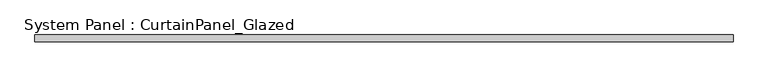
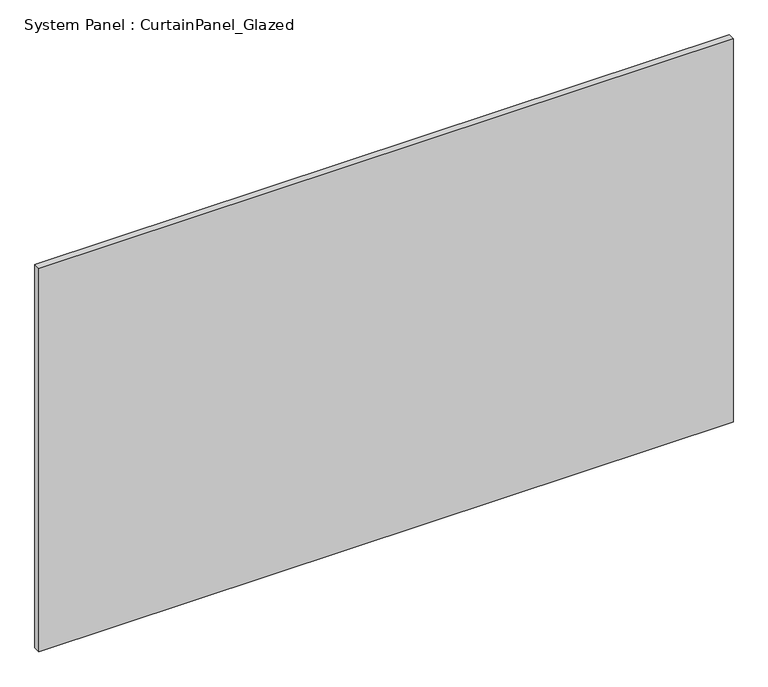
"""IFC4 building model written with IfcOpenShell, lengths in millimetres: plate geometry, System Panel : CurtainPanel_Glazed."""

from ifc_helpers import new_model, si_unit, origin, origin_with_axes, place, context, project, spatial, polyline, outline, extrude, source, transform, mapped, element, save


def system_panel_curtainpanel_glazed_9491f273(model_context):
    return source(origin(), model_context, "Body", "SweptSolid", [
        extrude(outline(polyline([(1271.6666668, -12.5), (-1271.6666668, -12.5), (-1271.6666668, 12.5), (1271.6666668, 12.5), (1271.6666668, -12.5)])), origin_with_axes(), (0.0, 0.0, 1.0), 1485.0),
    ])


if __name__ == "__main__":
    model = new_model("IFC4")
    model_context = context("Model", 3, world=origin())
    ifc_project = project(units=[si_unit("LENGTHUNIT", "METRE", prefix="MILLI")], contexts=[model_context])
    site = spatial("IfcSite", under=ifc_project)
    building = spatial("IfcBuilding", under=site)
    placement = place(None, origin())
    system_panel_curtainpanel_glazed_shape = system_panel_curtainpanel_glazed_9491f273(model_context)
    element("IfcPlate", 1, ObjectType="System Panel : CurtainPanel_Glazed", at=placement, inside=building, context=model_context, shape_type="MappedRepresentation", body=[
        mapped(system_panel_curtainpanel_glazed_shape, transform((0.0, 0.0, 0.0), x_axis=(1.0, 0.0, 0.0), y_axis=(0.0, 1.0, 0.0), z_axis=(0.0, 0.0, 1.0))),
    ])
    save(model, "model.ifc")
